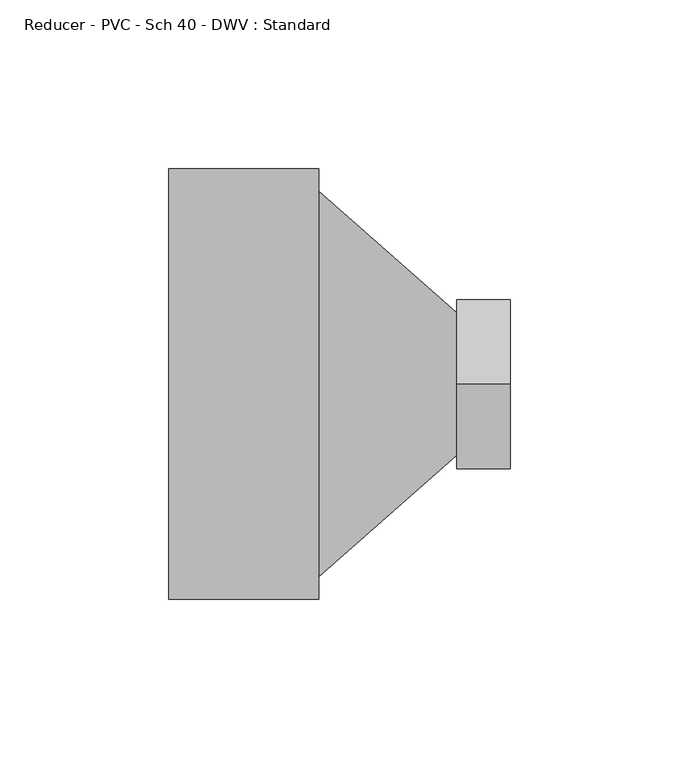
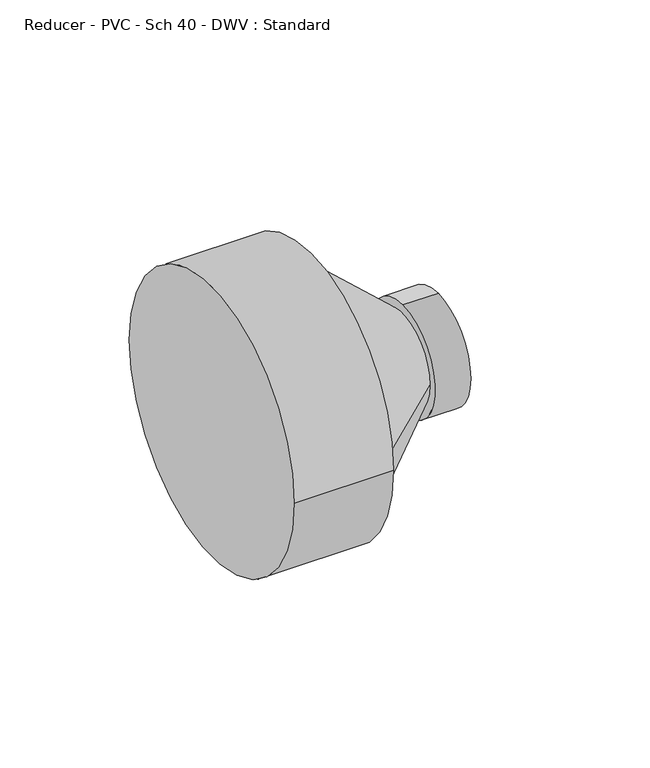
"""IFC4 building model written with IfcOpenShell, lengths in millimetres: pipe fitting geometry, Reducer - PVC - Sch 40 - DWV : Standard."""

from ifc_helpers import new_model, si_unit, frame, origin, place, context, project, spatial, polyline, circle_curve, source, transform, mapped, element, save
from ifc_brep_helpers import plane_surface, cylinder_surface, revolved_surface, advanced_brep


def reducer_pvc_sch_40_dwv_standard_9c0d98a8(model_context):
    return source(origin(), model_context, "Body", "AdvancedBrep", [
        advanced_brep(
        [(0.0, -63.754, 0.0), (0.0, 63.754, 0.0), (44.45, -63.754, 0.0), (44.45, 63.754, 0.0), (44.45, 57.15, 0.0), (44.45, -57.15, 0.0), (85.2685938, 21.0740625, 0.0), (85.2685938, -21.0740625, 0.0), (85.2685938, 0.0, 25.1321094), (85.2685938, 0.0, -25.1321094), (101.1435938, 0.0, 25.1321094), (101.1435938, 0.0, -25.1321094)],
        [
            (0, 1, circle_curve(frame((0.0, 0.0, 0.0), z_axis=(-1.0, 0.0, 0.0), x_axis=(0.0, 1.0, 0.0)), 63.754)),
            (1, 0, circle_curve(frame((0.0, 0.0, 0.0), z_axis=(-1.0, 0.0, 0.0), x_axis=(0.0, 1.0, 0.0)), 63.754)),
            (2, 3, circle_curve(frame((44.45, 0.0, 0.0), z_axis=(1.0, 0.0, 0.0), x_axis=(0.0, 1.0, 0.0)), 63.754)),
            (3, 2, circle_curve(frame((44.45, 0.0, 0.0), z_axis=(1.0, 0.0, 0.0), x_axis=(0.0, 1.0, 0.0)), 63.754)),
            (4, 5, circle_curve(frame((44.45, 0.0, 0.0), z_axis=(-1.0, 0.0, 0.0), x_axis=(0.0, -1.0, 0.0)), 57.15)),
            (5, 4, circle_curve(frame((44.45, 0.0, 0.0), z_axis=(-1.0, 0.0, 0.0), x_axis=(0.0, 1.0, 0.0)), 57.15)),
            (0, 2),
            (3, 1),
            (4, 6),
            (6, 7, circle_curve(frame((85.2685938, 0.0, 0.0), z_axis=(-1.0, 0.0, 0.0), x_axis=(0.0, -1.0, 0.0)), 21.0740625)),
            (7, 5),
            (7, 6, circle_curve(frame((85.2685938, 0.0, 0.0), z_axis=(-1.0, 0.0, 0.0), x_axis=(0.0, 1.0, 0.0)), 21.0740625)),
            (8, 9, circle_curve(frame((85.2685938, 0.0, 0.0), z_axis=(-1.0, 0.0, 0.0), x_axis=(0.0, 0.0, -1.0)), 25.1321094)),
            (9, 8, circle_curve(frame((85.2685938, 0.0, 0.0), z_axis=(-1.0, 0.0, 0.0), x_axis=(0.0, 0.0, -1.0)), 25.1321094)),
            (10, 11, circle_curve(frame((101.1435938, 0.0, 0.0), z_axis=(1.0, 0.0, 0.0), x_axis=(0.0, 0.0, -1.0)), 25.1321094)),
            (11, 10, circle_curve(frame((101.1435938, 0.0, 0.0), z_axis=(1.0, 0.0, 0.0), x_axis=(0.0, 0.0, -1.0)), 25.1321094)),
            (8, 10),
            (11, 9),
        ],
        [
            plane_surface(frame((0.0, 0.0, 0.0), z_axis=(-1.0, 0.0, 0.0), x_axis=(0.0, 0.0, 1.0))),
            plane_surface(frame((44.45, 0.0, 0.0), z_axis=(1.0, 0.0, 0.0), x_axis=(0.0, 0.0, 1.0))),
            cylinder_surface(frame((0.0, 0.0, 0.0), z_axis=(-1.0, 0.0, 0.0), x_axis=(0.0, 1.0, 0.0)), 63.754),
            revolved_surface(polyline([(85.2685938, 21.07406244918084, 0.0), (44.45, 57.15, 0.0)]), (109.1131188, 0.0, 0.0), (-1.0, 0.0, 0.0)),
            plane_surface(frame((85.2685938, 0.0, 0.0), z_axis=(-1.0, 0.0, 0.0), x_axis=(0.0, 1.0, 0.0))),
            plane_surface(frame((101.1435938, 0.0, 0.0), z_axis=(1.0, 0.0, 0.0), x_axis=(0.0, 1.0, 0.0))),
            cylinder_surface(frame((85.2685938, 0.0, 0.0), z_axis=(-1.0, 0.0, 0.0), x_axis=(0.0, 0.0, -1.0)), 25.1321094),
        ],
        [
            (0, [[1, 2]]),
            (1, [[3, 4], [5, 6]]),
            (2, [[-1, 7, -4, 8]]),
            (2, [[-2, -8, -3, -7]]),
            (3, [[9, 10, 11, -5]]),
            (3, [[-9, -6, -11, 12]]),
            (4, [[13, 14], [-10, -12]]),
            (5, [[15, 16]]),
            (6, [[-13, 17, -16, 18]]),
            (6, [[-14, -18, -15, -17]]),
        ],
    ),
    ])


if __name__ == "__main__":
    model = new_model("IFC4")
    model_context = context("Model", 3, world=origin())
    ifc_project = project(units=[si_unit("LENGTHUNIT", "METRE", prefix="MILLI")], contexts=[model_context])
    site = spatial("IfcSite", under=ifc_project)
    building = spatial("IfcBuilding", under=site)
    placement = place(None, origin())
    reducer_pvc_sch_40_dwv_standard_shape = reducer_pvc_sch_40_dwv_standard_9c0d98a8(model_context)
    element("IfcPipeFitting", 1, ObjectType="Reducer - PVC - Sch 40 - DWV : Standard", at=placement, inside=building, context=model_context, shape_type="MappedRepresentation", body=[
        mapped(reducer_pvc_sch_40_dwv_standard_shape, transform((0.0, 0.0, 0.0), x_axis=(1.0, 0.0, 0.0), y_axis=(0.0, 1.0, 0.0), z_axis=(0.0, 0.0, 1.0))),
    ])
    save(model, "model.ifc")
